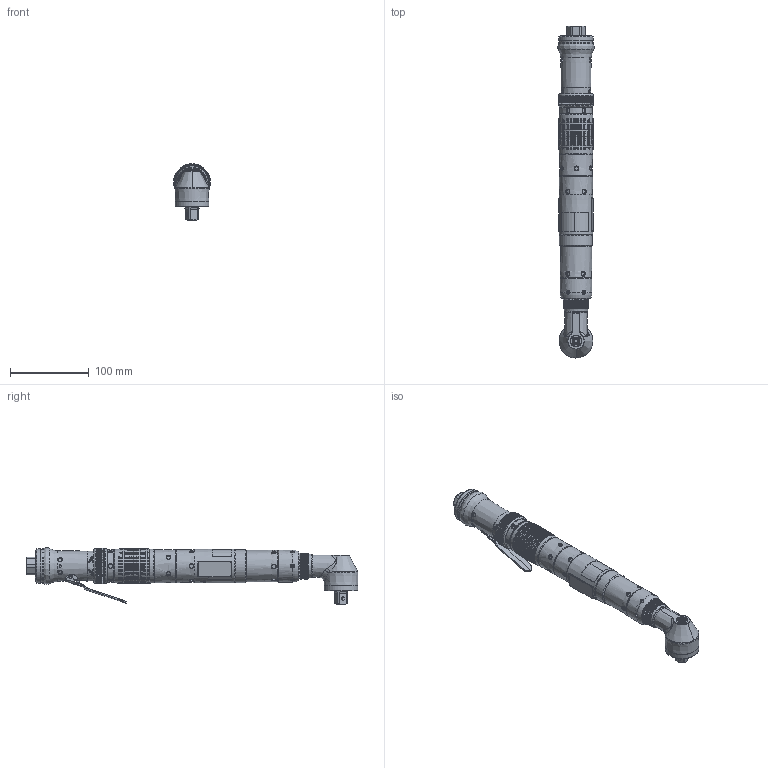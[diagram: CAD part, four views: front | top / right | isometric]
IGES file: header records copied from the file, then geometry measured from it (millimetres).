
Global section: file name: C:\Documents and Settings\rogupta\Desktop\siji2\16594491\16594491.igs; native system: Unigraphics Version X V2.0; preprocessor: Unigraphics NX IGES V2.0; date: 20070510.174210; units: inch
Bounding box: 46.21 x 421.6 x 72.21 mm (x, y, z)
Surface area: 84368.2 mm2 (no closed solid volume)
Topology: 0 solids, 0 shells, 1083 faces, 12808 edges, 12620 vertices
Faces by surface type: revolution 578, extrusion 477, bspline 26, offset 2
